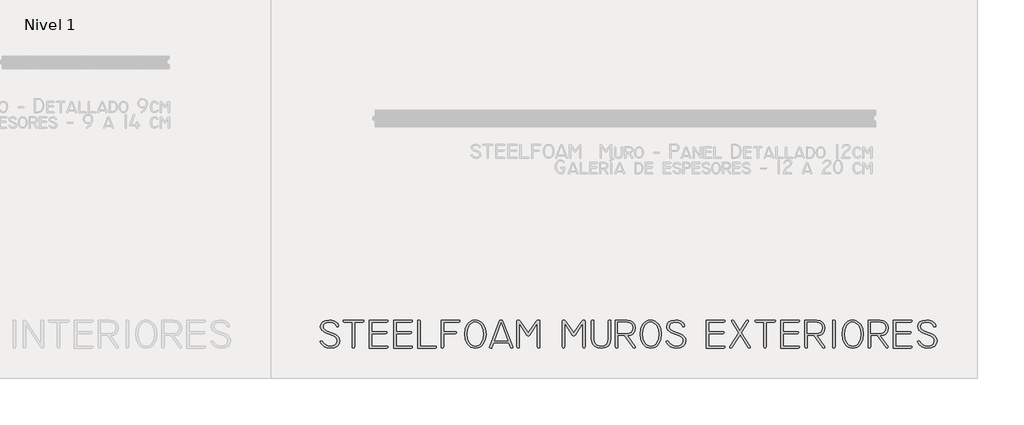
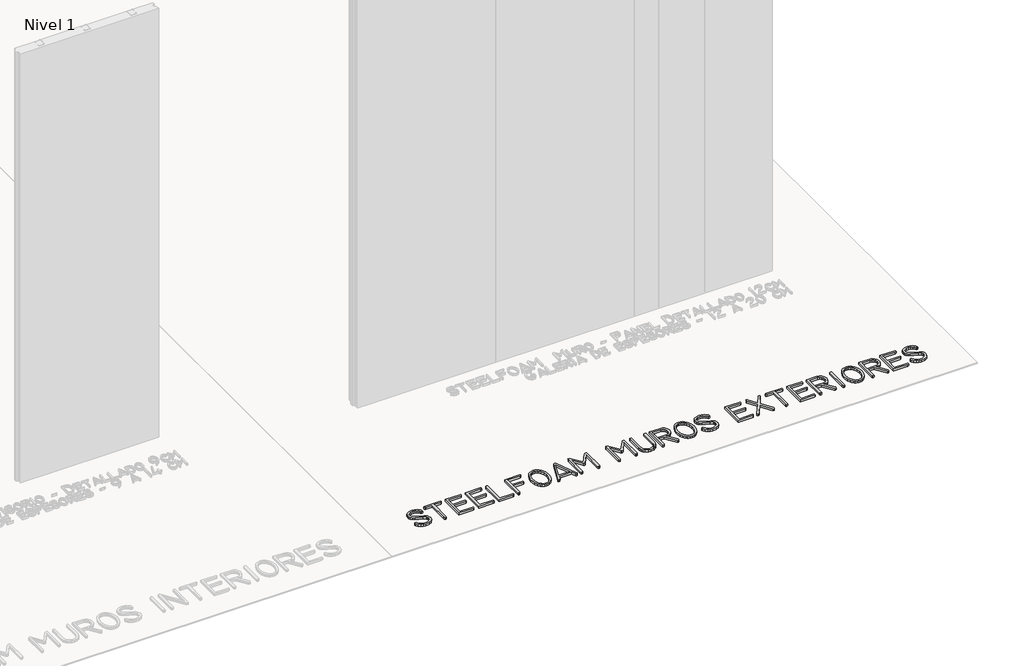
# One storey, part 4 of 6: 1 proxy.
"""IFC4 building model written with IfcOpenShell, lengths in millimetres."""

import ifcopenshell
import ifcopenshell.guid

model = None  # the IFC model being written
_history = None  # IfcOwnerHistory: only IFC2X3 demands one
_inside = {}  # id of a spatial element -> (the spatial element, [elements in it])
_under = {}  # id of a project, library or spatial element -> (it, [spatial elements below it])
_declared = {}  # id of a project -> (the project, [libraries it declares])
_typed = {}  # id of a type object -> (the type object, [elements of that type])
_made_of = {}  # id of a material, layer set ... -> (it, [elements and type objects made of it])


def new_model(schema):
    """Start an empty IFC model of exactly this schema.

    Asked for "IFC4X3", IfcOpenShell would pick the latest addendum, in which some entities
    have other attributes; the version numbers below select the first issue.
    IFC2X3 requires an IfcOwnerHistory on every rooted entity: one is made here for all.
    """
    global model, _history
    if schema == "IFC4X3":
        model = ifcopenshell.file(schema_version=(4, 3, 0, 0))
    else:
        model = ifcopenshell.file(schema=schema)
    _inside.clear()
    _under.clear()
    _declared.clear()
    _typed.clear()
    _made_of.clear()
    _history = None
    if model.schema == "IFC2X3":
        org = make("IfcOrganization", Name="unknown")
        user = make(
            "IfcPersonAndOrganization",
            ThePerson=make("IfcPerson", FamilyName="unknown"),
            TheOrganization=org,
        )
        app = make(
            "IfcApplication",
            ApplicationDeveloper=org,
            Version="unknown",
            ApplicationFullName="unknown",
            ApplicationIdentifier="unknown",
        )
        _history = make(
            "IfcOwnerHistory",
            OwningUser=user,
            OwningApplication=app,
            ChangeAction="ADDED",
            CreationDate=0,
        )
    return model


def make(cls, **values):
    """One entity of the class cls with the attributes given. An attribute that is None is left unset."""
    return model.create_entity(
        cls, **{name: value for name, value in values.items() if value is not None}
    )


def rooted(cls, **values):
    """An entity with a GlobalId (a new one), such as an element, a storey or a relation."""
    return make(cls, GlobalId=ifcopenshell.guid.new(), OwnerHistory=_history, **values)


def si_unit(unit_type, name, prefix=None):
    """IfcSIUnit, for example si_unit("LENGTHUNIT", "METRE", prefix="MILLI")."""
    return make("IfcSIUnit", UnitType=unit_type, Prefix=prefix, Name=name)


def assignment(units):
    """IfcUnitAssignment: the units of a project."""
    return None if units is None else make("IfcUnitAssignment", Units=units)


def point(xyz):
    """IfcCartesianPoint."""
    return None if xyz is None else make("IfcCartesianPoint", Coordinates=xyz)


def direction(xyz):
    """IfcDirection."""
    return None if xyz is None else make("IfcDirection", DirectionRatios=xyz)


def frame(location, z_axis=None, x_axis=None):
    """IfcAxis2Placement3D, a coordinate frame: its origin and axes. An axis left out is left unset."""
    return make(
        "IfcAxis2Placement3D",
        Location=point(location),
        Axis=direction(z_axis),
        RefDirection=direction(x_axis),
    )


def origin():
    """The frame at (0, 0, 0) with its axes left unset."""
    return frame((0.0, 0.0, 0.0))


def origin_with_axes():
    """The frame at (0, 0, 0) with the z axis (0, 0, 1) and the x axis (1, 0, 0) written out."""
    return frame((0.0, 0.0, 0.0), z_axis=(0.0, 0.0, 1.0), x_axis=(1.0, 0.0, 0.0))


def place(relative_to, where):
    """IfcLocalPlacement: puts the frame where relative to a parent placement (None: the world)."""
    return make(
        "IfcLocalPlacement", PlacementRelTo=relative_to, RelativePlacement=where
    )


def context(
    kind, dimensions, precision=None, world=None, true_north=None, identifier=None
):
    """IfcGeometricRepresentationContext, for example the 3D "Model" context."""
    return make(
        "IfcGeometricRepresentationContext",
        ContextIdentifier=identifier,
        ContextType=kind,
        CoordinateSpaceDimension=dimensions,
        Precision=precision,
        WorldCoordinateSystem=world,
        TrueNorth=true_north,
    )


def project(units=None, contexts=None):
    """IfcProject with its units and contexts."""
    return rooted(
        "IfcProject",
        Name="project",
        RepresentationContexts=contexts,
        UnitsInContext=assignment(units),
    )


def spatial(cls, under=None, at=None, **own):
    """A site, building, storey or space (cls), placed at a placement, below another one or the project."""
    s = rooted(cls, ObjectPlacement=at, **own)
    if under is not None:
        _under.setdefault(under.id(), (under, []))[1].append(s)
    return s


def polyline(points):
    """IfcPolyline through the points."""
    return make("IfcPolyline", Points=[point(p) for p in points])


def outline(outer, holes=None, kind="AREA"):
    """IfcArbitraryClosedProfileDef: a profile drawn as a closed curve; with holes, ...WithVoids."""
    if holes is None:
        return make("IfcArbitraryClosedProfileDef", ProfileType=kind, OuterCurve=outer)
    return make(
        "IfcArbitraryProfileDefWithVoids",
        ProfileType=kind,
        OuterCurve=outer,
        InnerCurves=holes,
    )


def extrude(swept, where, along, depth):
    """IfcExtrudedAreaSolid: the profile swept, set in the frame where, extruded along a direction by depth."""
    return make(
        "IfcExtrudedAreaSolid",
        SweptArea=swept,
        Position=where,
        ExtrudedDirection=direction(along),
        Depth=depth,
    )


def shape(context_of_items, identifier, shape_type, items):
    """IfcShapeRepresentation: the items that make up one representation, for example the "Body"."""
    return make(
        "IfcShapeRepresentation",
        ContextOfItems=context_of_items,
        RepresentationIdentifier=identifier,
        RepresentationType=shape_type,
        Items=items,
    )


def made_of(thing, what):
    """Note that an element or type object is made of a material, layer set ...; save() writes the relation."""
    if what is not None:
        _made_of.setdefault(what.id(), (what, []))[1].append(thing)
    return thing


def element(
    cls,
    number,
    at=None,
    inside=None,
    cuts=None,
    type_object=None,
    material=None,
    context=None,
    identifier="Body",
    shape_type=None,
    held_by="IfcProductDefinitionShape",
    body=None,
    shapes=None,
    **own,
):
    """One element of the class cls, such as IfcWall. Its Tag is "e" and its number.

    at: its placement. inside: the storey or other place that contains it. cuts: it is an
    opening in that element (IfcRelVoidsElement). A single representation is given by context,
    identifier, shape_type and body (its items); several are given by shapes. held_by: the class
    of the entity that holds the representations. save() writes the other relations.
    """
    e = rooted(cls, Tag="e%d" % number, ObjectPlacement=at, **own)
    if body is not None:
        shapes = [shape(context, identifier, shape_type, body)]
    if shapes is not None:
        e.Representation = make(held_by, Representations=shapes)
    if inside is not None:
        _inside.setdefault(inside.id(), (inside, []))[1].append(e)
    if cuts is not None:
        rooted(
            "IfcRelVoidsElement", RelatingBuildingElement=cuts, RelatedOpeningElement=e
        )
    if type_object is not None:
        _typed.setdefault(type_object.id(), (type_object, []))[1].append(e)
    return made_of(e, material)


def aggregate(whole, parts):
    """IfcRelAggregates: a whole, such as a stair, and the parts it consists of."""
    return rooted("IfcRelAggregates", RelatingObject=whole, RelatedObjects=parts)


def save(model, path):
    """Write the relations noted so far, then the file.

    IfcRelAggregates (storeys below a building ...), IfcRelContainedInSpatialStructure (elements
    in a storey), IfcRelDefinesByType, IfcRelAssociatesMaterial and IfcRelDeclares: one each for
    every whole, place, type object, material and project.
    """
    for whole, parts in _under.values():
        aggregate(whole, parts)
    for where, things in _inside.values():
        rooted(
            "IfcRelContainedInSpatialStructure",
            RelatedElements=things,
            RelatingStructure=where,
        )
    for kind, things in _typed.values():
        rooted("IfcRelDefinesByType", RelatedObjects=things, RelatingType=kind)
    for what, things in _made_of.values():
        rooted("IfcRelAssociatesMaterial", RelatedObjects=things, RelatingMaterial=what)
    for by, libraries in _declared.values():
        rooted("IfcRelDeclares", RelatingContext=by, RelatedDefinitions=libraries)
    model.write(path)


model = new_model("IFC4")

# Units and contexts
model_context = context("Model", 3, world=origin())
ifc_project = project(units=[si_unit("LENGTHUNIT", "METRE", prefix="MILLI")], contexts=[model_context])

# Site, building, storey
site = spatial("IfcSite", under=ifc_project)
building = spatial("IfcBuilding", under=site)
storey = spatial("IfcBuildingStorey", under=building, Name="Nivel 1", Elevation=0.0)

# Proxy
placement = place(None, origin())
element("IfcBuildingElementProxy", 1, Name="20cm", ObjectType="20cm", at=placement, inside=storey, context=model_context, shape_type="SweptSolid", body=[
    extrude(outline(polyline([(7635.6569219, -9530.4874668), (7631.0583133, -9554.8707869), (7617.2624874, -9572.2874441), (7594.2694444, -9582.7374384), (7562.0791841, -9586.2207698), (7542.175306, -9583.3668825), (7523.0414275, -9574.8052205), (7506.1564367, -9561.2935611), (7492.9992217, -9543.5896819), (7491.7281112, -9538.7985734), (7494.03811, -9533.8852427), (7500.9681062, -9532.2474658), (7507.8125469, -9535.034131), (7518.6353188, -9550.3546782), (7532.2325337, -9561.5074499), (7547.0886367, -9568.3091129), (7561.6880732, -9570.5763339), (7585.8361156, -9568.0249464), (7603.0847174, -9560.3707839), (7613.4338784, -9547.6138464), (7616.8835987, -9529.7541338), (7615.0380442, -9519.1360841), (7609.5013805, -9509.6730337), (7587.3547259, -9494.2119309), (7528.1503137, -9472.2119429), (7513.5844882, -9463.5280587), (7503.1803272, -9453.2186199), (7496.9378306, -9441.2836264), (7494.8569984, -9427.7230782), (7498.7772741, -9407.6175336), (7510.538101, -9392.9142082), (7530.1394792, -9383.6131022), (7557.5814088, -9379.7142154), (7579.0680637, -9380.1542152), (7600.3102744, -9389.4919879), (7620.2569302, -9404.1708688), (7625.2435942, -9412.3628088), (7626.9058155, -9421.1230818), (7624.6935945, -9427.1364119), (7618.0569314, -9429.1408552), (7612.3858234, -9427.5641894), (7609.0613808, -9422.834192), (7602.1924956, -9411.1314206), (7590.4836131, -9402.1297588), (7575.5480657, -9396.6114285), (7558.9991858, -9395.3586514), (7539.1503077, -9398.2155942), (7524.9725376, -9404.635313), (7516.4658756, -9414.6178076), (7513.6303215, -9428.163078), (7515.5492094, -9438.3808502), (7521.3058729, -9447.5230674), (7544.3325271, -9462.580837), (7603.3902727, -9485.0208248), (7617.5069317, -9494.2608198), (7627.5902596, -9504.9185918), (7633.6402563, -9516.9941408), (7635.6569219, -9530.4874668)])), origin_with_axes(), (0.0, 0.0, 1.0), 20.0),
    extrude(outline(polyline([(7803.4434973, -9395.3586514), (7745.1679734, -9395.3586514), (7745.1679734, -9576.8341083), (7742.8213081, -9583.8741044), (7735.7813119, -9586.2207698), (7728.7413157, -9583.8741044), (7726.3946503, -9576.8341083), (7726.3946503, -9395.3586514), (7669.5369035, -9395.3586514), (7662.9002404, -9393.011986), (7660.6880194, -9385.9719898), (7662.9246848, -9381.278659), (7669.6346812, -9379.7142154), (7803.4923862, -9379.7142154), (7810.2023825, -9381.278659), (7812.439048, -9385.9719898), (7810.1901603, -9393.011986), (7803.4434973, -9395.3586514)])), origin_with_axes(), (0.0, 0.0, 1.0), 20.0),
    extrude(outline(polyline([(7979.8345125, -9586.2207698), (7851.5501378, -9586.2207698), (7851.5501378, -9379.7142154), (7979.8345125, -9379.7142154), (7986.5445089, -9381.278659), (7988.7811743, -9385.9719898), (7986.5567311, -9393.011986), (7979.8834014, -9395.3586514), (7870.323461, -9395.3586514), (7870.323461, -9464.1941695), (7973.4789604, -9464.1941695), (7980.1522901, -9465.7586131), (7982.3767334, -9470.4519439), (7980.1522901, -9477.49194), (7973.4789604, -9479.8386054), (7870.323461, -9479.8386054), (7870.323461, -9570.5763339), (7979.8834014, -9570.5763339), (7986.5567311, -9572.1407775), (7988.7811743, -9576.8341083), (7986.5445089, -9583.8741044), (7979.8345125, -9586.2207698)])), origin_with_axes(), (0.0, 0.0, 1.0), 20.0),
    extrude(outline(polyline([(8158.1810822, -9586.2207698), (8029.8967075, -9586.2207698), (8029.8967075, -9379.7142154), (8158.1810822, -9379.7142154), (8164.8910786, -9381.278659), (8167.127744, -9385.9719898), (8164.9033008, -9393.011986), (8158.2299711, -9395.3586514), (8048.6700307, -9395.3586514), (8048.6700307, -9464.1941695), (8151.8255301, -9464.1941695), (8158.4988598, -9465.7586131), (8160.7233031, -9470.4519439), (8158.4988598, -9477.49194), (8151.8255301, -9479.8386054), (8048.6700307, -9479.8386054), (8048.6700307, -9570.5763339), (8158.2299711, -9570.5763339), (8164.9033008, -9572.1407775), (8167.127744, -9576.8341083), (8164.8910786, -9583.8741044), (8158.1810822, -9586.2207698)])), origin_with_axes(), (0.0, 0.0, 1.0), 20.0),
    extrude(outline(polyline([(8333.3987648, -9586.2207698), (8205.1143901, -9586.2207698), (8205.1143901, -9385.9719898), (8207.4610554, -9381.278659), (8214.5010516, -9379.7142154), (8221.5410478, -9381.278659), (8223.8877132, -9385.9719898), (8223.8877132, -9570.5763339), (8333.4476536, -9570.5763339), (8340.1209833, -9572.1407775), (8342.3454266, -9576.8341083), (8340.1087611, -9583.8741044), (8333.3987648, -9586.2207698)])), origin_with_axes(), (0.0, 0.0, 1.0), 20.0),
    extrude(outline(polyline([(8505.5364489, -9395.3586514), (8395.9765085, -9395.3586514), (8395.9765085, -9464.1941695), (8480.7986846, -9464.1941695), (8487.4720143, -9465.7586131), (8489.6964576, -9470.4519439), (8487.4720143, -9477.49194), (8480.7986846, -9479.8386054), (8395.9765085, -9479.8386054), (8395.9765085, -9576.8341083), (8393.6298431, -9583.8741044), (8386.5898469, -9586.2207698), (8379.5498508, -9583.8741044), (8377.2031854, -9576.8341083), (8377.2031854, -9379.7142154), (8505.4875601, -9379.7142154), (8512.1975564, -9381.278659), (8514.4342219, -9385.9719898), (8512.2097787, -9393.011986), (8505.5364489, -9395.3586514)])), origin_with_axes(), (0.0, 0.0, 1.0), 20.0),
    extrude(outline(polyline([(8705.7363401, -9482.4297151), (8700.7863428, -9520.9296942), (8685.9363509, -9553.3185655), (8674.0716351, -9567.7132799), (8660.4774758, -9577.9952187), (8645.153873, -9584.164382), (8628.1008268, -9586.2207698), (8611.0111138, -9584.1674376), (8595.5775111, -9578.0074409), (8581.8000186, -9567.7407799), (8569.6786363, -9553.3674543), (8554.3886446, -9520.7952498), (8549.2919807, -9482.4297151), (8554.0830892, -9444.8952911), (8568.4564147, -9412.0786423), (8579.755853, -9397.9192055), (8592.8764015, -9387.8053221), (8607.81806, -9381.7369921), (8624.5808287, -9379.7142154), (8642.5474856, -9381.7369921), (8658.558588, -9387.8053221), (8672.6141359, -9397.9192055), (8684.7141293, -9412.0786423), (8700.4807874, -9444.9686244), (8705.7363401, -9482.4297151)]), holes=[polyline([(8686.963017, -9482.4297151), (8682.9785747, -9449.8575106), (8671.0252479, -9422.5408588), (8661.5438641, -9410.648643), (8650.6508145, -9402.1542032), (8638.346099, -9397.0575393), (8624.6297175, -9395.3586514), (8611.9583355, -9397.0514282), (8600.6863972, -9402.1297588), (8590.8139026, -9410.5936431), (8582.3408516, -9422.4430811), (8571.6341908, -9449.6375107), (8568.0653038, -9482.4297151), (8571.9641906, -9515.930808), (8583.6608509, -9543.1007933), (8593.0383458, -9555.1213423), (8603.5708401, -9563.7074487), (8615.2583337, -9568.8591126), (8628.1008268, -9570.5763339), (8640.9708198, -9568.8591126), (8652.5941468, -9563.7074487), (8662.9708078, -9555.1213423), (8672.1008028, -9543.1007933), (8683.2474634, -9516.0041413), (8686.963017, -9482.4297151)])]), origin_with_axes(), (0.0, 0.0, 1.0), 20.0),
    extrude(outline(polyline([(8901.4384559, -9575.0252203), (8902.3184555, -9577.4207746), (8899.9229012, -9584.020771), (8892.7362384, -9586.2207698), (8887.2851303, -9583.7274378), (8883.7406878, -9576.2474419), (8870.1006952, -9545.5452364), (8762.4474204, -9545.5452364), (8749.100761, -9580.5496618), (8745.7518739, -9584.8029928), (8740.3985435, -9586.2207698), (8733.1752141, -9584.020771), (8730.7674376, -9577.4207746), (8731.354104, -9575.856331), (8803.074065, -9386.7542116), (8807.0829517, -9381.4742145), (8815.1007251, -9379.7142154), (8822.8740542, -9381.5353255), (8827.2251629, -9386.9986559), (8901.4384559, -9575.0252203)]), holes=[polyline([(8864.2340317, -9529.9008004), (8815.1985028, -9401.2253148), (8768.2163061, -9529.9008004), (8864.2340317, -9529.9008004)])]), origin_with_axes(), (0.0, 0.0, 1.0), 20.0),
    extrude(outline(polyline([(9099.9761258, -9576.8341083), (9097.6294604, -9583.8741044), (9090.5894642, -9586.2207698), (9083.549468, -9583.8741044), (9081.2028026, -9576.8341083), (9081.2028026, -9403.2786471), (9024.5895001, -9490.1052665), (9014.4695056, -9496.6563741), (9004.8872886, -9490.6919329), (8949.7895408, -9403.5719802), (8949.7895408, -9576.8341083), (8947.4428754, -9583.8741044), (8940.4028792, -9586.2207698), (8933.362883, -9583.8741044), (8931.0162176, -9576.8341083), (8931.0162176, -9386.5097673), (8933.533994, -9381.4131034), (8941.0873233, -9379.7142154), (8950.1195406, -9382.244214), (8956.7806481, -9389.8342099), (9014.5672833, -9474.0208308), (9073.5272513, -9390.2742097), (9080.6161363, -9382.354214), (9089.4650204, -9379.7142154), (9097.3483494, -9381.6331033), (9099.9761258, -9387.3897668), (9099.9761258, -9576.8341083)])), origin_with_axes(), (0.0, 0.0, 1.0), 20.0),
    extrude(outline(polyline([(9431.6381677, -9576.8341083), (9429.2915023, -9583.8741044), (9422.2515061, -9586.2207698), (9415.2115099, -9583.8741044), (9412.8648446, -9576.8341083), (9412.8648446, -9403.2786471), (9356.251542, -9490.1052665), (9346.1315475, -9496.6563741), (9336.5493305, -9490.6919329), (9281.4515827, -9403.5719802), (9281.4515827, -9576.8341083), (9279.1049173, -9583.8741044), (9272.0649211, -9586.2207698), (9265.0249249, -9583.8741044), (9262.6782595, -9576.8341083), (9262.6782595, -9386.5097673), (9265.196036, -9381.4131034), (9272.7493652, -9379.7142154), (9281.7815825, -9382.244214), (9288.44269, -9389.8342099), (9346.2293252, -9474.0208308), (9405.1892932, -9390.2742097), (9412.2781782, -9382.354214), (9421.1270623, -9379.7142154), (9429.0103913, -9381.6331033), (9431.6381677, -9387.3897668), (9431.6381677, -9576.8341083)])), origin_with_axes(), (0.0, 0.0, 1.0), 20.0),
    extrude(outline(polyline([(9619.371399, -9516.5052522), (9615.0936235, -9545.1724588), (9602.2602971, -9566.3474473), (9580.8714199, -9580.0302176), (9550.9269917, -9586.2207698), (9524.0625619, -9583.4952157), (9500.3759081, -9571.2118891), (9489.4675807, -9560.7527281), (9481.6759183, -9548.4907903), (9477.0009208, -9534.4260758), (9475.4425883, -9518.5585844), (9475.4425883, -9385.9719898), (9477.7892537, -9381.278659), (9484.8292499, -9379.7142154), (9491.869246, -9381.278659), (9494.2159114, -9385.9719898), (9494.2159114, -9518.0208069), (9498.7503534, -9541.7074607), (9512.3536794, -9558.8918958), (9530.1736697, -9566.8241137), (9549.6069924, -9570.5763339), (9571.9155914, -9565.9166142), (9587.850305, -9555.2618978), (9597.4111331, -9538.6121846), (9600.5980758, -9515.9674747), (9600.5980758, -9385.9719898), (9602.9447412, -9381.278659), (9609.9847374, -9379.7142154), (9617.0247336, -9381.278659), (9619.371399, -9385.9719898), (9619.371399, -9516.5052522)])), origin_with_axes(), (0.0, 0.0, 1.0), 20.0),
    extrude(outline(polyline([(9797.7179687, -9435.6430739), (9792.804638, -9462.4708371), (9778.064646, -9481.8430488), (9764.6446533, -9489.7263778), (9751.3713272, -9492.3541542), (9737.242446, -9492.3541542), (9797.3268578, -9573.4607768), (9797.7179687, -9576.4429974), (9795.4201921, -9583.7763267), (9788.5268625, -9586.2207698), (9781.5846441, -9582.602994), (9717.0513458, -9492.3541542), (9669.433594, -9492.3541542), (9669.433594, -9576.8341083), (9667.0869286, -9583.8741044), (9660.0469324, -9586.2207698), (9653.0069362, -9583.8741044), (9650.6602708, -9576.8341083), (9650.6602708, -9379.7142154), (9739.2957782, -9379.7142154), (9761.8457659, -9383.3808801), (9779.8246451, -9394.3808741), (9793.2446378, -9413.1053084), (9797.7179687, -9435.6430739)]), holes=[polyline([(9778.9446455, -9435.6430739), (9775.8890916, -9418.8741941), (9766.72243, -9405.8208679), (9754.194659, -9397.9742055), (9739.002445, -9395.3586514), (9669.433594, -9395.3586514), (9669.433594, -9476.7097182), (9750.5402165, -9476.7097182), (9766.5757634, -9469.0341669), (9775.852425, -9455.3819521), (9778.9446455, -9435.6430739)])]), origin_with_axes(), (0.0, 0.0, 1.0), 20.0),
    extrude(outline(polyline([(9988.5800871, -9482.4297151), (9983.6300898, -9520.9296942), (9968.7800979, -9553.3185655), (9956.9153821, -9567.7132799), (9943.3212228, -9577.9952187), (9927.9976201, -9584.164382), (9910.9445738, -9586.2207698), (9893.8548608, -9584.1674376), (9878.4212581, -9578.0074409), (9864.6437656, -9567.7407799), (9852.5223833, -9553.3674543), (9837.2323916, -9520.7952498), (9832.1357277, -9482.4297151), (9836.9268362, -9444.8952911), (9851.3001618, -9412.0786423), (9862.5996001, -9397.9192055), (9875.7201485, -9387.8053221), (9890.661807, -9381.7369921), (9907.4245757, -9379.7142154), (9925.3912326, -9381.7369921), (9941.402335, -9387.8053221), (9955.4578829, -9397.9192055), (9967.5578763, -9412.0786423), (9983.3245344, -9444.9686244), (9988.5800871, -9482.4297151)]), holes=[polyline([(9969.806764, -9482.4297151), (9965.8223217, -9449.8575106), (9953.8689949, -9422.5408588), (9944.3876111, -9410.648643), (9933.4945615, -9402.1542032), (9921.189846, -9397.0575393), (9907.4734645, -9395.3586514), (9894.8020825, -9397.0514282), (9883.5301442, -9402.1297588), (9873.6576496, -9410.5936431), (9865.1845986, -9422.4430811), (9854.4779378, -9449.6375107), (9850.9090509, -9482.4297151), (9854.8079376, -9515.930808), (9866.5045979, -9543.1007933), (9875.8820928, -9555.1213423), (9886.4145871, -9563.7074487), (9898.1020808, -9568.8591126), (9910.9445738, -9570.5763339), (9923.8145668, -9568.8591126), (9935.4378938, -9563.7074487), (9945.8145548, -9555.1213423), (9954.9445498, -9543.1007933), (9966.0912105, -9516.0041413), (9969.806764, -9482.4297151)])]), origin_with_axes(), (0.0, 0.0, 1.0), 20.0),
    extrude(outline(polyline([(10166.9266568, -9530.4874668), (10162.3280482, -9554.8707869), (10148.5322224, -9572.2874441), (10125.5391793, -9582.7374384), (10093.348919, -9586.2207698), (10073.445041, -9583.3668825), (10054.3111625, -9574.8052205), (10037.4261717, -9561.2935611), (10024.2689566, -9543.5896819), (10022.9978462, -9538.7985734), (10025.3078449, -9533.8852427), (10032.2378412, -9532.2474658), (10039.0822819, -9535.034131), (10049.9050538, -9550.3546782), (10063.5022686, -9561.5074499), (10078.3583716, -9568.3091129), (10092.9578081, -9570.5763339), (10117.1058506, -9568.0249464), (10134.3544523, -9560.3707839), (10144.7036134, -9547.6138464), (10148.1533337, -9529.7541338), (10146.3077791, -9519.1360841), (10140.7711155, -9509.6730337), (10118.6244609, -9494.2119309), (10059.4200486, -9472.2119429), (10044.8542232, -9463.5280587), (10034.4500622, -9453.2186199), (10028.2075656, -9441.2836264), (10026.1267334, -9427.7230782), (10030.047009, -9407.6175336), (10041.807836, -9392.9142082), (10061.4092142, -9383.6131022), (10088.8511437, -9379.7142154), (10110.3377987, -9380.1542152), (10131.5800094, -9389.4919879), (10151.5266652, -9404.1708688), (10156.5133292, -9412.3628088), (10158.1755505, -9421.1230818), (10155.9633295, -9427.1364119), (10149.3266664, -9429.1408552), (10143.6555584, -9427.5641894), (10140.3311157, -9422.834192), (10133.4622306, -9411.1314206), (10121.753348, -9402.1297588), (10106.8178006, -9396.6114285), (10090.2689207, -9395.3586514), (10070.4200426, -9398.2155942), (10056.2422726, -9404.635313), (10047.7356105, -9414.6178076), (10044.9000565, -9428.163078), (10046.8189443, -9438.3808502), (10052.5756079, -9447.5230674), (10075.602262, -9462.580837), (10134.6600077, -9485.0208248), (10148.7766667, -9494.2608198), (10158.8599945, -9504.9185918), (10164.9099913, -9516.9941408), (10166.9266568, -9530.4874668)])), origin_with_axes(), (0.0, 0.0, 1.0), 20.0),
    extrude(outline(polyline([(10445.3976165, -9586.2207698), (10317.1132418, -9586.2207698), (10317.1132418, -9379.7142154), (10445.3976165, -9379.7142154), (10452.1076129, -9381.278659), (10454.3442783, -9385.9719898), (10452.1198351, -9393.011986), (10445.4465054, -9395.3586514), (10335.886565, -9395.3586514), (10335.886565, -9464.1941695), (10439.0420644, -9464.1941695), (10445.7153941, -9465.7586131), (10447.9398374, -9470.4519439), (10445.7153941, -9477.49194), (10439.0420644, -9479.8386054), (10335.886565, -9479.8386054), (10335.886565, -9570.5763339), (10445.4465054, -9570.5763339), (10452.1198351, -9572.1407775), (10454.3442783, -9576.8341083), (10452.1076129, -9583.8741044), (10445.3976165, -9586.2207698)])), origin_with_axes(), (0.0, 0.0, 1.0), 20.0),
    extrude(outline(polyline([(10637.9219563, -9573.2652213), (10639.2419556, -9576.8341083), (10636.8464013, -9583.8741044), (10629.6597386, -9586.2207698), (10622.1308538, -9581.7718833), (10562.8286638, -9488.2963786), (10503.1842518, -9581.7718833), (10495.655367, -9586.2207698), (10488.4687042, -9583.84966), (10486.07315, -9576.7363305), (10486.9531495, -9574.3407763), (10552.2686696, -9474.4608306), (10501.1309196, -9392.8164305), (10500.8864753, -9385.9719898), (10503.196474, -9381.278659), (10510.1264702, -9379.7142154), (10514.9786898, -9381.2908812), (10517.8997993, -9386.0208787), (10562.7797749, -9458.669728), (10607.7086394, -9385.9719898), (10610.6053045, -9381.278659), (10615.4819685, -9379.7142154), (10622.4119647, -9381.6697699), (10624.7219635, -9387.5364334), (10624.3797415, -9392.9630971), (10573.3886581, -9474.4608306), (10637.9219563, -9573.2652213)])), origin_with_axes(), (0.0, 0.0, 1.0), 20.0),
    extrude(outline(polyline([(10813.432972, -9395.3586514), (10755.1574481, -9395.3586514), (10755.1574481, -9576.8341083), (10752.8107827, -9583.8741044), (10745.7707866, -9586.2207698), (10738.7307904, -9583.8741044), (10736.384125, -9576.8341083), (10736.384125, -9395.3586514), (10679.5263781, -9395.3586514), (10672.8897151, -9393.011986), (10670.6774941, -9385.9719898), (10672.9141595, -9381.278659), (10679.6241559, -9379.7142154), (10813.4818609, -9379.7142154), (10820.1918572, -9381.278659), (10822.4285227, -9385.9719898), (10820.179635, -9393.011986), (10813.432972, -9395.3586514)])), origin_with_axes(), (0.0, 0.0, 1.0), 20.0),
    extrude(outline(polyline([(10989.8239872, -9586.2207698), (10861.5396125, -9586.2207698), (10861.5396125, -9379.7142154), (10989.8239872, -9379.7142154), (10996.5339836, -9381.278659), (10998.770649, -9385.9719898), (10996.5462058, -9393.011986), (10989.8728761, -9395.3586514), (10880.3129356, -9395.3586514), (10880.3129356, -9464.1941695), (10983.4684351, -9464.1941695), (10990.1417648, -9465.7586131), (10992.3662081, -9470.4519439), (10990.1417648, -9477.49194), (10983.4684351, -9479.8386054), (10880.3129356, -9479.8386054), (10880.3129356, -9570.5763339), (10989.8728761, -9570.5763339), (10996.5462058, -9572.1407775), (10998.770649, -9576.8341083), (10996.5339836, -9583.8741044), (10989.8239872, -9586.2207698)])), origin_with_axes(), (0.0, 0.0, 1.0), 20.0),
    extrude(outline(polyline([(11183.8149929, -9435.6430739), (11178.9016622, -9462.4708371), (11164.1616702, -9481.8430488), (11150.7416775, -9489.7263778), (11137.4683514, -9492.3541542), (11123.3394702, -9492.3541542), (11183.423882, -9573.4607768), (11183.8149929, -9576.4429974), (11181.5172163, -9583.7763267), (11174.6238868, -9586.2207698), (11167.6816683, -9582.602994), (11103.1483701, -9492.3541542), (11055.5306182, -9492.3541542), (11055.5306182, -9576.8341083), (11053.1839528, -9583.8741044), (11046.1439566, -9586.2207698), (11039.1039604, -9583.8741044), (11036.757295, -9576.8341083), (11036.757295, -9379.7142154), (11125.3928024, -9379.7142154), (11147.9427901, -9383.3808801), (11165.9216693, -9394.3808741), (11179.341662, -9413.1053084), (11183.8149929, -9435.6430739)]), holes=[polyline([(11165.0416697, -9435.6430739), (11161.9861158, -9418.8741941), (11152.8194542, -9405.8208679), (11140.2916832, -9397.9742055), (11125.0994692, -9395.3586514), (11055.5306182, -9395.3586514), (11055.5306182, -9476.7097182), (11136.6372407, -9476.7097182), (11152.6727876, -9469.0341669), (11161.9494492, -9455.3819521), (11165.0416697, -9435.6430739)])]), origin_with_axes(), (0.0, 0.0, 1.0), 20.0),
    extrude(outline(polyline([(11258.9082854, -9576.8341083), (11256.56162, -9583.8741044), (11249.5216238, -9586.2207698), (11242.4816276, -9583.8741044), (11240.1349622, -9576.8341083), (11240.1349622, -9385.9719898), (11242.4816276, -9381.278659), (11249.5216238, -9379.7142154), (11256.56162, -9381.278659), (11258.9082854, -9385.9719898), (11258.9082854, -9576.8341083)])), origin_with_axes(), (0.0, 0.0, 1.0), 20.0),
    extrude(outline(polyline([(11465.4148398, -9482.4297151), (11460.4648425, -9520.9296942), (11445.6148505, -9553.3185655), (11433.7501348, -9567.7132799), (11420.1559755, -9577.9952187), (11404.8323727, -9584.164382), (11387.7793264, -9586.2207698), (11370.6896135, -9584.1674376), (11355.2560108, -9578.0074409), (11341.4785183, -9567.7407799), (11329.357136, -9553.3674543), (11314.0671443, -9520.7952498), (11308.9704804, -9482.4297151), (11313.7615889, -9444.8952911), (11328.1349144, -9412.0786423), (11339.4343527, -9397.9192055), (11352.5549011, -9387.8053221), (11367.4965597, -9381.7369921), (11384.2593283, -9379.7142154), (11402.2259852, -9381.7369921), (11418.2370876, -9387.8053221), (11432.2926356, -9397.9192055), (11444.392629, -9412.0786423), (11460.1592871, -9444.9686244), (11465.4148398, -9482.4297151)]), holes=[polyline([(11446.6415166, -9482.4297151), (11442.6570744, -9449.8575106), (11430.7037475, -9422.5408588), (11421.2223638, -9410.648643), (11410.3293142, -9402.1542032), (11398.0245986, -9397.0575393), (11384.3082172, -9395.3586514), (11371.6368352, -9397.0514282), (11360.3648969, -9402.1297588), (11350.4924023, -9410.5936431), (11342.0193513, -9422.4430811), (11331.3126905, -9449.6375107), (11327.7438035, -9482.4297151), (11331.6426903, -9515.930808), (11343.3393506, -9543.1007933), (11352.7168455, -9555.1213423), (11363.2493398, -9563.7074487), (11374.9368334, -9568.8591126), (11387.7793264, -9570.5763339), (11400.6493194, -9568.8591126), (11412.2726464, -9563.7074487), (11422.6493075, -9555.1213423), (11431.7793025, -9543.1007933), (11442.9259631, -9516.0041413), (11446.6415166, -9482.4297151)])]), origin_with_axes(), (0.0, 0.0, 1.0), 20.0),
    extrude(outline(polyline([(11646.8902967, -9435.6430739), (11641.976966, -9462.4708371), (11627.236974, -9481.8430488), (11613.8169813, -9489.7263778), (11600.5436552, -9492.3541542), (11586.414774, -9492.3541542), (11646.4991858, -9573.4607768), (11646.8902967, -9576.4429974), (11644.5925201, -9583.7763267), (11637.6991906, -9586.2207698), (11630.7569721, -9582.602994), (11566.2236739, -9492.3541542), (11518.605922, -9492.3541542), (11518.605922, -9576.8341083), (11516.2592566, -9583.8741044), (11509.2192604, -9586.2207698), (11502.1792642, -9583.8741044), (11499.8325988, -9576.8341083), (11499.8325988, -9379.7142154), (11588.4681062, -9379.7142154), (11611.0180939, -9383.3808801), (11628.9969731, -9394.3808741), (11642.4169658, -9413.1053084), (11646.8902967, -9435.6430739)]), holes=[polyline([(11628.1169735, -9435.6430739), (11625.0614196, -9418.8741941), (11615.894758, -9405.8208679), (11603.366987, -9397.9742055), (11588.174773, -9395.3586514), (11518.605922, -9395.3586514), (11518.605922, -9476.7097182), (11599.7125445, -9476.7097182), (11615.7480914, -9469.0341669), (11625.024753, -9455.3819521), (11628.1169735, -9435.6430739)])]), origin_with_axes(), (0.0, 0.0, 1.0), 20.0),
    extrude(outline(polyline([(11812.7213176, -9586.2207698), (11684.4369429, -9586.2207698), (11684.4369429, -9379.7142154), (11812.7213176, -9379.7142154), (11819.431314, -9381.278659), (11821.6679794, -9385.9719898), (11819.4435362, -9393.011986), (11812.7702065, -9395.3586514), (11703.210266, -9395.3586514), (11703.210266, -9464.1941695), (11806.3657655, -9464.1941695), (11813.0390952, -9465.7586131), (11815.2635385, -9470.4519439), (11813.0390952, -9477.49194), (11806.3657655, -9479.8386054), (11703.210266, -9479.8386054), (11703.210266, -9570.5763339), (11812.7702065, -9570.5763339), (11819.4435362, -9572.1407775), (11821.6679794, -9576.8341083), (11819.431314, -9583.8741044), (11812.7213176, -9586.2207698)])), origin_with_axes(), (0.0, 0.0, 1.0), 20.0),
    extrude(outline(polyline([(12003.5834361, -9530.4874668), (11998.9848275, -9554.8707869), (11985.1890016, -9572.2874441), (11962.1959586, -9582.7374384), (11930.0056983, -9586.2207698), (11910.1018202, -9583.3668825), (11890.9679417, -9574.8052205), (11874.0829509, -9561.2935611), (11860.9257359, -9543.5896819), (11859.6546254, -9538.7985734), (11861.9646242, -9533.8852427), (11868.8946204, -9532.2474658), (11875.7390611, -9535.034131), (11886.561833, -9550.3546782), (11900.1590479, -9561.5074499), (11915.0151509, -9568.3091129), (11929.6145874, -9570.5763339), (11953.7626298, -9568.0249464), (11971.0112316, -9560.3707839), (11981.3603926, -9547.6138464), (11984.810113, -9529.7541338), (11982.9645584, -9519.1360841), (11977.4278947, -9509.6730337), (11955.2812401, -9494.2119309), (11896.0768279, -9472.2119429), (11881.5110024, -9463.5280587), (11871.1068414, -9453.2186199), (11864.8643448, -9441.2836264), (11862.7835126, -9427.7230782), (11866.7037883, -9407.6175336), (11878.4646152, -9392.9142082), (11898.0659934, -9383.6131022), (11925.507923, -9379.7142154), (11946.994578, -9380.1542152), (11968.2367886, -9389.4919879), (11988.1834445, -9404.1708688), (11993.1701084, -9412.3628088), (11994.8323297, -9421.1230818), (11992.6201087, -9427.1364119), (11985.9834456, -9429.1408552), (11980.3123376, -9427.5641894), (11976.987895, -9422.834192), (11970.1190098, -9411.1314206), (11958.4101273, -9402.1297588), (11943.4745799, -9396.6114285), (11926.9257, -9395.3586514), (11907.0768219, -9398.2155942), (11892.8990518, -9404.635313), (11884.3923898, -9414.6178076), (11881.5568358, -9428.163078), (11883.4757236, -9438.3808502), (11889.2323871, -9447.5230674), (11912.2590413, -9462.580837), (11971.316787, -9485.0208248), (11985.4334459, -9494.2608198), (11995.5167738, -9504.9185918), (12001.5667705, -9516.9941408), (12003.5834361, -9530.4874668)])), origin_with_axes(), (0.0, 0.0, 1.0), 20.0),
])

save(model, "model.ifc")
